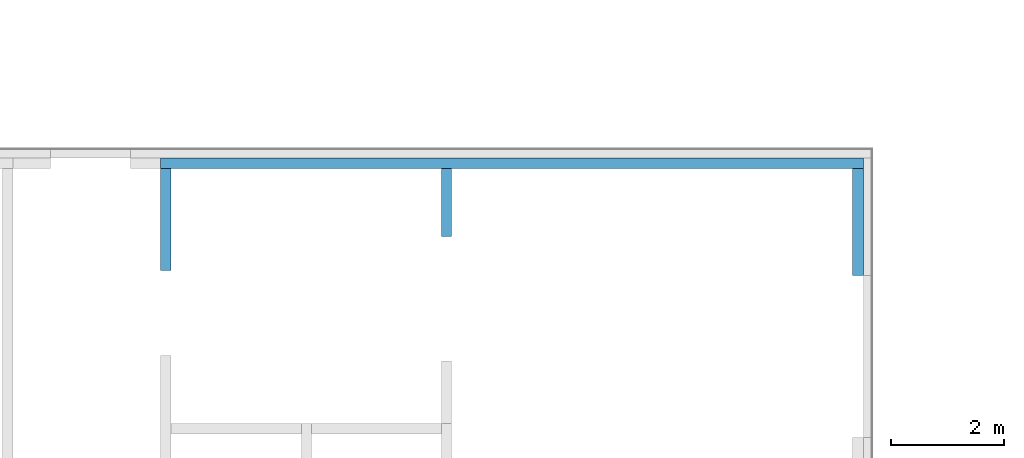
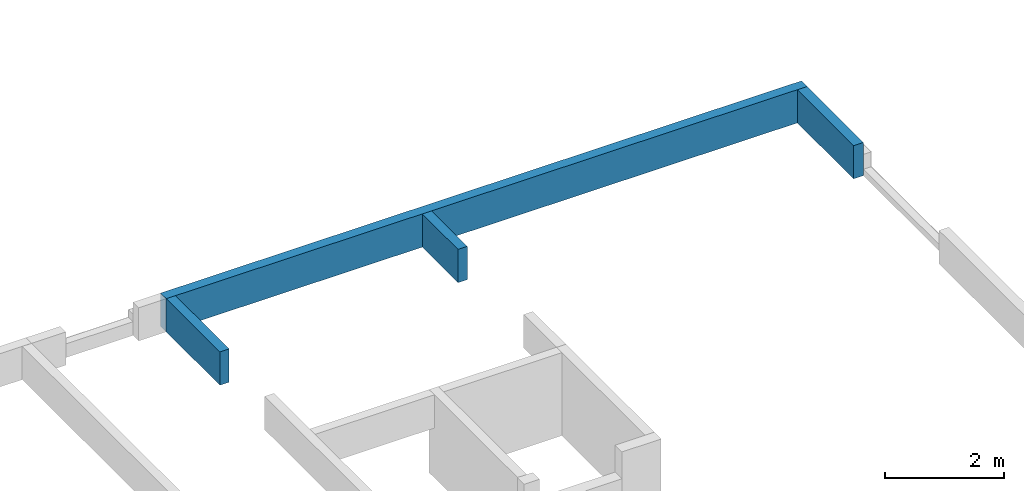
# One storey, part 4 of 7: 4 beams.
"""IFC2X3 building model written with IfcOpenShell, lengths in millimetres."""

from ifc_helpers import new_model, entity, si_unit, converted_unit, derived_unit, money_unit, direction, frame, origin_with_axes, place, context, subcontext, project, spatial, faceted_brep, material, type_object, element, save


model = new_model("IFC2X3")

# Units and contexts
model_context = context("Model", 3, precision=0.01, world=origin_with_axes(), true_north=direction((0.0, 1.0)))
body_context = subcontext(model_context, "Body", "Model", "MODEL_VIEW")
ifc_project = project(units=[si_unit("LENGTHUNIT", "METRE", prefix="MILLI"), si_unit("AREAUNIT", "SQUARE_METRE"), si_unit("VOLUMEUNIT", "CUBIC_METRE"), converted_unit("PLANEANGLEUNIT", "DEGREE", entity("IfcPlaneAngleMeasure", 0.0174532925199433), si_unit("PLANEANGLEUNIT", "RADIAN"), dimensions=[0, 0, 0, 0, 0, 0, 0]), money_unit("EUR"), converted_unit("TIMEUNIT", "Year", entity("IfcTimeMeasure", 31556926.0), si_unit("TIMEUNIT", "SECOND"), dimensions=[0, 0, 1, 0, 0, 0, 0]), si_unit("MASSUNIT", "GRAM", prefix="KILO"), si_unit("THERMODYNAMICTEMPERATUREUNIT", "DEGREE_CELSIUS"), si_unit("LUMINOUSINTENSITYUNIT", "LUMEN"), si_unit("ENERGYUNIT", "JOULE", prefix="MEGA"), derived_unit("THERMALCONDUCTANCEUNIT", [(si_unit("POWERUNIT", "WATT"), 1), (si_unit("LENGTHUNIT", "METRE"), -1), (si_unit("THERMODYNAMICTEMPERATUREUNIT", "KELVIN"), -1)]), derived_unit("SPECIFICHEATCAPACITYUNIT", [(si_unit("ENERGYUNIT", "JOULE"), 1), (si_unit("MASSUNIT", "GRAM", prefix="KILO"), -1), (si_unit("THERMODYNAMICTEMPERATUREUNIT", "KELVIN"), -1)]), derived_unit("MASSDENSITYUNIT", [(si_unit("MASSUNIT", "GRAM", prefix="KILO"), 1), (si_unit("VOLUMEUNIT", "CUBIC_METRE"), -1)])], contexts=[model_context])

# Site, building, storey
site_placement = place(None, origin_with_axes())
site = spatial("IfcSite", under=ifc_project, at=site_placement, Name="ÜBN Kinnistu Nimi -> SOLIBRI", CompositionType="ELEMENT")
building_placement = place(site_placement, origin_with_axes())
building = spatial("IfcBuilding", under=site, at=building_placement, Name="METK ARETUSKESKUS II", CompositionType="ELEMENT")
storey_placement = place(building_placement, frame((0.0, 0.0, -1610.0), z_axis=(0.0, 0.0, 1.0), x_axis=(1.0, 0.0, 0.0)))
storey = spatial("IfcBuildingStorey", under=building, at=storey_placement, Name="Vundament", CompositionType="ELEMENT", Elevation=-1610.0)

# Beams
ifc_material = material(Name="31 Konst: raudbetoon monoliitne")
beam_type_1 = type_object("IfcBeamType", Name="31 Konst: raudbetoon monoliitne 180", PredefinedType="BEAM")
beam_1_placement = place(storey_placement, frame((82485.00000572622, 36770.00000699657, 1330.0), z_axis=(0.0, 0.0, 1.0), x_axis=(0.0, 1.0, 0.0)))
element("IfcBeam", 1, at=beam_1_placement, inside=storey, type_object=beam_type_1, material=ifc_material, ObjectType="BEAM", context=body_context, shape_type="Brep", body=[
    faceted_brep([(1200.000000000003, 0.0, 680.0000000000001), (1200.000000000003, 180.0000000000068, 680.0000000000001), (0.0, 180.0000000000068, 680.0000000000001), (0.0, 0.0, 680.0000000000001), (1200.000000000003, 0.0, 0.0), (1200.000000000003, 180.0000000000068, 0.0), (0.0, 180.0000000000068, 0.0), (0.0, 0.0, 0.0)], [[[0, 1, 2, 3]], [[1, 0, 4, 5]], [[1, 5, 6, 2]], [[7, 3, 2, 6]], [[4, 0, 3, 7]], [[5, 4, 7, 6]]]),
])
beam_2_placement = place(storey_placement, frame((77525.00000107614, 36170.00000699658, 1330.0), z_axis=(0.0, 0.0, 1.0), x_axis=(0.0, 1.0, 0.0)))
element("IfcBeam", 2, at=beam_2_placement, inside=storey, type_object=beam_type_1, material=ifc_material, ObjectType="BEAM", context=body_context, shape_type="Brep", body=[
    faceted_brep([(1799.999999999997, 0.0, 680.0000000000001), (1799.999999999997, 180.0000000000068, 680.0000000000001), (0.0, 180.0000000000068, 680.0000000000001), (0.0, 0.0, 680.0000000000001), (1799.999999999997, 0.0, 0.0), (1799.999999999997, 180.0000000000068, 0.0), (0.0, 180.0000000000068, 0.0), (0.0, 0.0, 0.0)], [[[0, 1, 2, 3]], [[1, 0, 4, 5]], [[1, 5, 6, 2]], [[7, 3, 2, 6]], [[4, 0, 3, 7]], [[5, 4, 7, 6]]]),
])
beam_type_2 = type_object("IfcBeamType", Name="31 Konst: raudbetoon monoliitne 190", PredefinedType="BEAM")
beam_3_placement = place(storey_placement, frame((89569.99991283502, 37970.00000699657, 1330.0), z_axis=(0.0, 0.0, 1.0), x_axis=(-1.0, 0.0, 0.0)))
element("IfcBeam", 3, at=beam_3_placement, inside=storey, type_object=beam_type_2, material=ifc_material, ObjectType="BEAM", context=body_context, shape_type="Brep", body=[
    faceted_brep([(-189.9999999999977, 0.0, 0.0), (12224.99991175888, 0.0, 0.0), (12224.99991175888, -189.9999999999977, 0.0), (-189.9999999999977, -189.9999999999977, 0.0), (-189.9999999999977, 0.0, 680.0000000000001), (12224.99991175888, 0.0, 680.0000000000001), (12224.99991175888, -189.9999999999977, 680.0000000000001), (-189.9999999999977, -189.9999999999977, 680.0000000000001)], [[[0, 1, 2, 3]], [[4, 5, 1, 0]], [[2, 1, 5, 6]], [[3, 2, 6, 7]], [[4, 0, 3, 7]], [[7, 6, 5, 4]]]),
])
beam_4_placement = place(storey_placement, frame((89569.99991283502, 37970.00000699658, 1330.0), z_axis=(0.0, 0.0, 1.0), x_axis=(0.0, -1.0, 0.0)))
element("IfcBeam", 4, at=beam_4_placement, inside=storey, type_object=beam_type_2, material=ifc_material, ObjectType="BEAM", context=body_context, shape_type="Brep", body=[
    faceted_brep([(0.0, 0.0, 680.0000000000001), (1890.000006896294, 0.0, 680.0000000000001), (1890.000006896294, 189.9999999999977, 680.0000000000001), (0.0, 189.9999999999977, 680.0000000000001), (0.0, 0.0, 0.0), (1890.000006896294, 0.0, 0.0), (1890.000006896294, 189.9999999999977, 0.0), (0.0, 189.9999999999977, 0.0)], [[[0, 1, 2, 3]], [[4, 5, 1, 0]], [[2, 1, 5, 6]], [[3, 2, 6, 7]], [[4, 0, 3, 7]], [[7, 6, 5, 4]]]),
])

save(model, "model.ifc")
